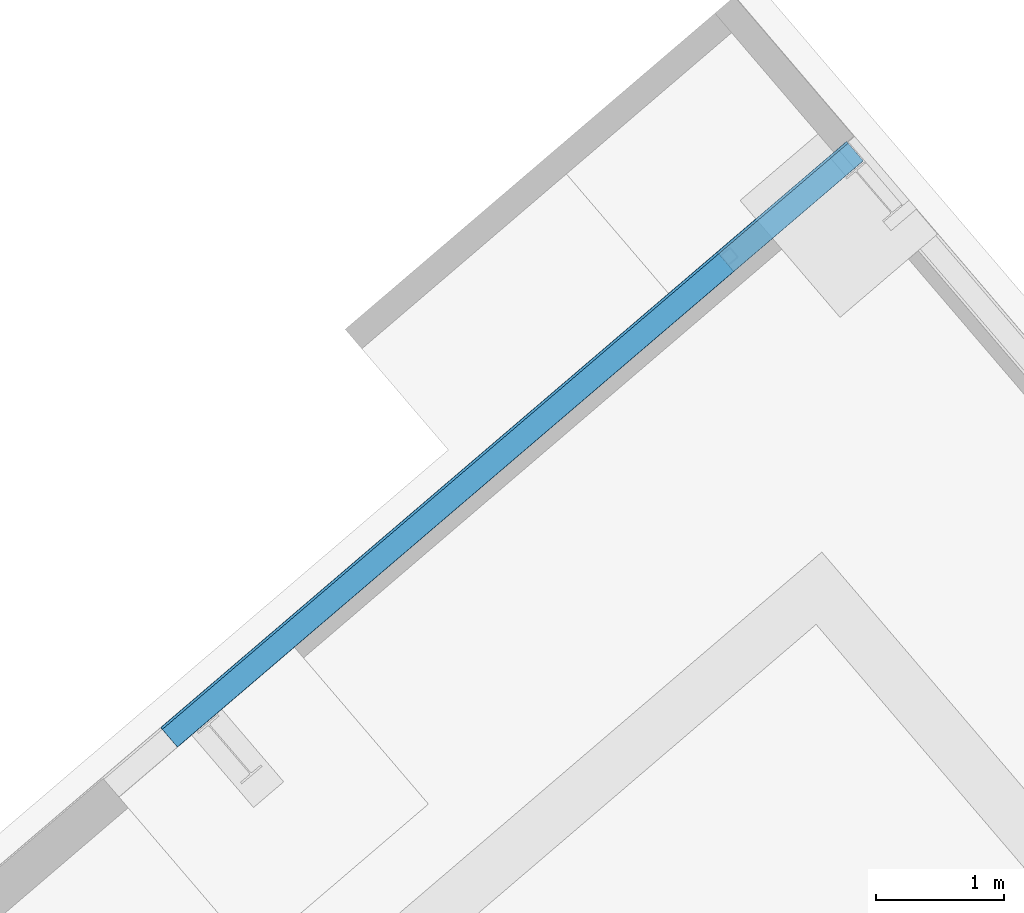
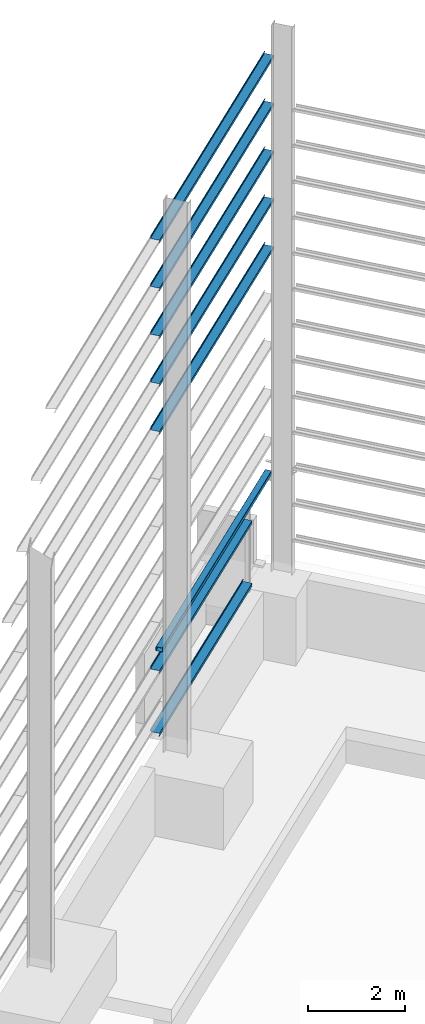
# One storey, part 26 of 41: 6 beams, 2 members.
"""IFC2X3 building model written with IfcOpenShell, lengths in millimetres."""

from ifc_helpers import new_model, entity, si_unit, converted_unit, derived_unit, direction, frame, frame_2d, origin, place, context, subcontext, project, spatial, polyline, circle_curve, parameter, trimmed, segment, composite_curve, outline, extrude, source, transform, mapped, material, type_object, type_shapes, element, save


model = new_model("IFC2X3")

# Units and contexts
model_context = context("Model", 3, precision=0.01, world=origin(), true_north=direction((6.123031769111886e-17, 1.0)))
body_context = subcontext(model_context, "Body", "Model", "MODEL_VIEW")
ifc_project = project(units=[si_unit("LENGTHUNIT", "METRE", prefix="MILLI"), si_unit("AREAUNIT", "SQUARE_METRE"), si_unit("VOLUMEUNIT", "CUBIC_METRE"), converted_unit("PLANEANGLEUNIT", "DEGREE", entity("IfcRatioMeasure", 0.017453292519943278), si_unit("PLANEANGLEUNIT", "RADIAN"), dimensions=[0, 0, 0, 0, 0, 0, 0]), si_unit("MASSUNIT", "GRAM", prefix="KILO"), derived_unit("MASSDENSITYUNIT", [(si_unit("MASSUNIT", "GRAM", prefix="KILO"), 1), (si_unit("LENGTHUNIT", "METRE"), -3)]), derived_unit("MOMENTOFINERTIAUNIT", [(si_unit("LENGTHUNIT", "METRE"), 4)]), si_unit("TIMEUNIT", "SECOND"), si_unit("FREQUENCYUNIT", "HERTZ"), si_unit("THERMODYNAMICTEMPERATUREUNIT", "DEGREE_CELSIUS"), derived_unit("THERMALTRANSMITTANCEUNIT", [(si_unit("MASSUNIT", "GRAM", prefix="KILO"), 1), (si_unit("THERMODYNAMICTEMPERATUREUNIT", "KELVIN"), -1), (si_unit("TIMEUNIT", "SECOND"), -3)]), derived_unit("VOLUMETRICFLOWRATEUNIT", [(si_unit("LENGTHUNIT", "METRE"), 3), (si_unit("TIMEUNIT", "SECOND"), -1)]), derived_unit("MASSFLOWRATEUNIT", [(si_unit("MASSUNIT", "GRAM", prefix="KILO"), 1), (si_unit("TIMEUNIT", "SECOND"), -1)]), derived_unit("ROTATIONALFREQUENCYUNIT", [(si_unit("TIMEUNIT", "SECOND"), -1)]), si_unit("ELECTRICCURRENTUNIT", "AMPERE"), si_unit("ELECTRICVOLTAGEUNIT", "VOLT"), si_unit("POWERUNIT", "WATT"), si_unit("FORCEUNIT", "NEWTON", prefix="KILO"), si_unit("ILLUMINANCEUNIT", "LUX"), si_unit("LUMINOUSFLUXUNIT", "LUMEN"), si_unit("LUMINOUSINTENSITYUNIT", "CANDELA"), derived_unit("USERDEFINED", [(si_unit("MASSUNIT", "GRAM", prefix="KILO"), -1), (si_unit("LENGTHUNIT", "METRE"), -2), (si_unit("TIMEUNIT", "SECOND"), 3), (si_unit("LUMINOUSFLUXUNIT", "LUMEN"), 1)]), derived_unit("SOUNDPOWERUNIT", [(si_unit("MASSUNIT", "GRAM", prefix="KILO"), 1), (si_unit("LENGTHUNIT", "METRE"), 2), (si_unit("TIMEUNIT", "SECOND"), -3)]), derived_unit("LINEARVELOCITYUNIT", [(si_unit("LENGTHUNIT", "METRE"), 1), (si_unit("TIMEUNIT", "SECOND"), -1)]), si_unit("PRESSUREUNIT", "PASCAL"), derived_unit("USERDEFINED", [(si_unit("LENGTHUNIT", "METRE"), -2), (si_unit("MASSUNIT", "GRAM", prefix="KILO"), 1), (si_unit("TIMEUNIT", "SECOND"), -2)]), derived_unit("LINEARFORCEUNIT", [(si_unit("MASSUNIT", "GRAM", prefix="KILO"), 1), (si_unit("LENGTHUNIT", "METRE"), 1), (si_unit("TIMEUNIT", "SECOND"), -2), (si_unit("LENGTHUNIT", "METRE"), -1)]), derived_unit("PLANARFORCEUNIT", [(si_unit("MASSUNIT", "GRAM", prefix="KILO"), 1), (si_unit("LENGTHUNIT", "METRE"), 1), (si_unit("TIMEUNIT", "SECOND"), -2), (si_unit("LENGTHUNIT", "METRE"), -2)])], contexts=[model_context])

# Site, building, storey
site_placement = place(None, frame((962.4174930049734, -6014.433753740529, 0.0), z_axis=(0.0, 0.0, 1.0), x_axis=(0.7601792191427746, 0.649713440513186, 0.0)))
site = spatial("IfcSite", under=ifc_project, at=site_placement, Name="Default", CompositionType="ELEMENT")
building_placement = place(site_placement, origin())
building = spatial("IfcBuilding", under=site, at=building_placement, CompositionType="ELEMENT")
storey_placement = place(building_placement, origin())
storey = spatial("IfcBuildingStorey", under=building, at=storey_placement, Name="Datum", CompositionType="ELEMENT", Elevation=0.0)

# Beam
ifc_material_1 = material(Name="Metal - Steel - 300 MPa")
beam_type_1 = type_object("IfcBeamType", Name="ADSK_AU_RHS-Rectangular Hollow Sections (AS 1163_C350):150x100x5.0RHS", PredefinedType="NOTDEFINED")
beam_1_placement = place(storey_placement, frame((179137.06020470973, 3859.0719178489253, 2140.0)))
element("IfcBeam", 1, at=beam_1_placement, inside=storey, type_object=beam_type_1, material=ifc_material_1, Name="ADSK_AU_RHS-Rectangular Hollow Sections (AS 1163_C350):150x100x5.0RHS", ObjectType="ADSK_AU_RHS-Rectangular Hollow Sections (AS 1163_C350):150x100x5.0RHS", context=body_context, shape_type="SweptSolid", body=[
    extrude(outline(composite_curve([segment(trimmed(circle_curve(frame_2d((-37.49999999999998, -62.49999999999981), x_axis=(1.0, 0.0)), 12.5), [parameter(180.00000000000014)], [parameter(269.99999999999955)], True, "PARAMETER"), True, "CONTINUOUS"), segment(polyline([(-37.49999999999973, -75.0), (37.50000000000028, -75.0)]), True, "CONTINUOUS"), segment(trimmed(circle_curve(frame_2d((37.50000000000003, -62.499999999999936), x_axis=(1.0, 0.0)), 12.5), [parameter(269.9999999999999)], [parameter(0.0)], True, "PARAMETER"), True, "CONTINUOUS"), segment(polyline([(50.0, -62.499999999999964), (50.0, 62.500000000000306)]), True, "CONTINUOUS"), segment(trimmed(circle_curve(frame_2d((37.500000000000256, 62.499999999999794), x_axis=(1.0, 0.0)), 12.5), [parameter(359.9999999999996)], [parameter(89.99999999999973)], True, "PARAMETER"), True, "CONTINUOUS"), segment(polyline([(37.50000000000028, 75.0), (-37.49999999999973, 75.0)]), True, "CONTINUOUS"), segment(trimmed(circle_curve(frame_2d((-37.49999999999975, 62.49999999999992), x_axis=(1.0, 0.0)), 12.5), [parameter(90.00000000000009)], [parameter(180.00000000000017)], True, "PARAMETER"), True, "CONTINUOUS"), segment(polyline([(-50.0, 62.49999999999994), (-50.0, -62.49999999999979)]), True, "CONTINUOUS")], self_intersect=False), holes=[composite_curve([segment(polyline([(37.500000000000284, -70.0), (-37.49999999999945, -70.0)]), True, "CONTINUOUS"), segment(trimmed(circle_curve(frame_2d((-37.49999999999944, -62.50000000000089), x_axis=(1.0, 0.0)), 7.5), [parameter(180.0000000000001)], [parameter(269.9999999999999)], True, "PARAMETER"), False, "CONTINUOUS"), segment(polyline([(-45.0, -62.500000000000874), (-45.0, 62.499999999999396)]), True, "CONTINUOUS"), segment(trimmed(circle_curve(frame_2d((-37.49999999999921, 62.49999999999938), x_axis=(1.0, 0.0)), 7.5), [parameter(90.00000000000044)], [parameter(180.0000000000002)], True, "PARAMETER"), False, "CONTINUOUS"), segment(polyline([(-37.499999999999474, 70.0), (37.50000000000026, 70.0)]), True, "CONTINUOUS"), segment(trimmed(circle_curve(frame_2d((37.500000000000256, 62.499999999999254), x_axis=(1.0, 0.0)), 7.5), [parameter(0.0)], [parameter(90.00000000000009)], True, "PARAMETER"), False, "CONTINUOUS"), segment(polyline([(45.0, 62.49999999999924), (45.0, -62.50000000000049)]), True, "CONTINUOUS"), segment(trimmed(circle_curve(frame_2d((37.50000000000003, -62.500000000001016), x_axis=(1.0, 0.0)), 7.5), [parameter(270.00000000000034)], [parameter(4.0711099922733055e-13)], True, "PARAMETER"), False, "CONTINUOUS")], self_intersect=False)]), frame((1.9000000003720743, -75.0, 0.0), z_axis=(1.0, 0.0, 0.0), x_axis=(0.0, 0.0, 1.0)), (0.0, 0.0, 1.0), 6740.299999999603),
])

# Members
ifc_material_2 = material(Name="Metal - Steel - 345 MPa")
member_type_1 = type_object("IfcMemberType", Name="ADSK_AU_Light Gauge-Zeds:Z20015", PredefinedType="BRACE", material=ifc_material_2)
shared_shape_1 = source(origin(), body_context, "Body", "SweptSolid", [
    extrude(outline(composite_curve([segment(polyline([(-98.0, -67.50000000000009), (-81.49999999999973, -67.50000000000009)]), True, "CONTINUOUS"), segment(polyline([(-81.49999999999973, -67.50000000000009), (-81.49999999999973, -66.0)]), True, "CONTINUOUS"), segment(polyline([(-81.49999999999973, -66.0), (-98.0, -66.0)]), True, "CONTINUOUS"), segment(trimmed(circle_curve(frame_2d((-98.0, -64.0), x_axis=(0.0, -1.0)), 2.000000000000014), [parameter(270.00000000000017)], [parameter(0.0)], True, "PARAMETER"), False, "CONTINUOUS"), segment(polyline([(-100.0, -64.0), (-100.0, -6.500000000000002)]), True, "CONTINUOUS"), segment(trimmed(circle_curve(frame_2d((-98.0, -6.500000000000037), x_axis=(-1.0, 0.0)), 2.0000000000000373), [parameter(270.0000000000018)], [parameter(0.0)], True, "PARAMETER"), False, "CONTINUOUS"), segment(polyline([(-98.0, -4.499999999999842), (98.0, -4.499999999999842)]), True, "CONTINUOUS"), segment(trimmed(circle_curve(frame_2d((98.0, -1.0), x_axis=(0.0, -1.0)), 3.5000000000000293), [parameter(0.0)], [parameter(89.99999999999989)], True, "PARAMETER"), True, "CONTINUOUS"), segment(polyline([(101.49999999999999, -1.0), (101.49999999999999, 69.0)]), True, "CONTINUOUS"), segment(trimmed(circle_curve(frame_2d((98.0, 69.0), x_axis=(1.0, 0.0)), 3.4999999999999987), [parameter(0.0)], [parameter(90.00000000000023)], True, "PARAMETER"), True, "CONTINUOUS"), segment(polyline([(98.0, 72.49999999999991), (81.49999999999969, 72.49999999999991)]), True, "CONTINUOUS"), segment(polyline([(81.49999999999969, 72.49999999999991), (81.49999999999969, 71.0)]), True, "CONTINUOUS"), segment(polyline([(81.49999999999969, 71.0), (98.0, 71.0)]), True, "CONTINUOUS"), segment(trimmed(circle_curve(frame_2d((98.0, 69.0), x_axis=(0.0, 1.0)), 2.000000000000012), [parameter(270.00000000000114)], [parameter(0.0)], True, "PARAMETER"), False, "CONTINUOUS"), segment(polyline([(100.0, 69.0), (100.0, -1.0)]), True, "CONTINUOUS"), segment(trimmed(circle_curve(frame_2d((98.0, -1.0), x_axis=(1.0, 0.0)), 1.99999999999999), [parameter(269.99999999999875)], [parameter(0.0)], True, "PARAMETER"), False, "CONTINUOUS"), segment(polyline([(98.0, -3.0), (-98.0, -3.0)]), True, "CONTINUOUS"), segment(trimmed(circle_curve(frame_2d((-98.0, -6.499999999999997), x_axis=(0.0, 1.0)), 3.5000000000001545), [parameter(0.0)], [parameter(89.99999999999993)], True, "PARAMETER"), True, "CONTINUOUS"), segment(polyline([(-101.50000000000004, -6.500000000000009), (-101.50000000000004, -64.0)]), True, "CONTINUOUS"), segment(trimmed(circle_curve(frame_2d((-98.0, -64.0), x_axis=(-1.0, 0.0)), 3.5000000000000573), [parameter(0.0)], [parameter(89.99999999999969)], True, "PARAMETER"), True, "CONTINUOUS")], self_intersect=False)), frame((-2823.6948683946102, 4.500000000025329, 0.0), z_axis=(1.0, 0.0, 0.0), x_axis=(0.0, 0.0, -1.0)), (0.0, 0.0, 1.0), 5711.200000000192),
])
type_shapes(member_type_1, [shared_shape_1])
member_1_placement = place(storey_placement, frame((181662.155073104, 3770.5719178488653, 256.19467070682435), z_axis=(0.0, 1.0, 0.0), x_axis=(1.0, 0.0, 0.0)))
element("IfcMember", 2, at=member_1_placement, inside=storey, type_object=member_type_1, material=ifc_material_2, Name="ADSK_AU_Light Gauge-Zeds:Z20015", ObjectType="ADSK_AU_Light Gauge-Zeds:Z20015", context=body_context, shape_type="MappedRepresentation", body=[
    mapped(shared_shape_1, transform((0.0, 0.0, 0.0), scale=1.0)),
])
member_type_2 = type_object("IfcMemberType", Name="ADSK_AU_Light Gauge-Zeds:Z20015", PredefinedType="BRACE", material=ifc_material_2)
shared_shape_2 = source(origin(), body_context, "Body", "SweptSolid", [
    extrude(outline(composite_curve([segment(polyline([(-98.0, -67.50000000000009), (-81.49999999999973, -67.50000000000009)]), True, "CONTINUOUS"), segment(polyline([(-81.49999999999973, -67.50000000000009), (-81.49999999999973, -66.0)]), True, "CONTINUOUS"), segment(polyline([(-81.49999999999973, -66.0), (-98.0, -66.0)]), True, "CONTINUOUS"), segment(trimmed(circle_curve(frame_2d((-98.0, -64.0), x_axis=(0.0, -1.0)), 2.0000000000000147), [parameter(270.00000000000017)], [parameter(0.0)], True, "PARAMETER"), False, "CONTINUOUS"), segment(polyline([(-100.0, -64.0), (-100.0, -6.500000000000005)]), True, "CONTINUOUS"), segment(trimmed(circle_curve(frame_2d((-98.0, -6.500000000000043), x_axis=(-1.0, 0.0)), 2.000000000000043), [parameter(270.000000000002)], [parameter(0.0)], True, "PARAMETER"), False, "CONTINUOUS"), segment(polyline([(-98.0, -4.499999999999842), (98.0, -4.499999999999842)]), True, "CONTINUOUS"), segment(trimmed(circle_curve(frame_2d((98.0, -1.0), x_axis=(0.0, -1.0)), 3.500000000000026), [parameter(0.0)], [parameter(89.99999999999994)], True, "PARAMETER"), True, "CONTINUOUS"), segment(polyline([(101.49999999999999, -1.0), (101.49999999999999, 69.0)]), True, "CONTINUOUS"), segment(trimmed(circle_curve(frame_2d((98.0, 69.0), x_axis=(1.0, 0.0)), 3.4999999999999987), [parameter(0.0)], [parameter(90.00000000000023)], True, "PARAMETER"), True, "CONTINUOUS"), segment(polyline([(98.0, 72.49999999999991), (81.49999999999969, 72.49999999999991)]), True, "CONTINUOUS"), segment(polyline([(81.49999999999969, 72.49999999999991), (81.49999999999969, 71.0)]), True, "CONTINUOUS"), segment(polyline([(81.49999999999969, 71.0), (98.0, 71.0)]), True, "CONTINUOUS"), segment(trimmed(circle_curve(frame_2d((98.0, 69.0), x_axis=(0.0, 1.0)), 2.000000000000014), [parameter(270.00000000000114)], [parameter(0.0)], True, "PARAMETER"), False, "CONTINUOUS"), segment(polyline([(100.0, 69.0), (100.0, -1.0)]), True, "CONTINUOUS"), segment(trimmed(circle_curve(frame_2d((98.0, -1.0), x_axis=(1.0, 0.0)), 1.9999999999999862), [parameter(269.99999999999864)], [parameter(0.0)], True, "PARAMETER"), False, "CONTINUOUS"), segment(polyline([(98.0, -3.0), (-98.0, -3.0)]), True, "CONTINUOUS"), segment(trimmed(circle_curve(frame_2d((-98.0, -6.499999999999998), x_axis=(0.0, 1.0)), 3.5000000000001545), [parameter(0.0)], [parameter(89.99999999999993)], True, "PARAMETER"), True, "CONTINUOUS"), segment(polyline([(-101.50000000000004, -6.50000000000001), (-101.50000000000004, -64.0)]), True, "CONTINUOUS"), segment(trimmed(circle_curve(frame_2d((-98.0, -64.0), x_axis=(-1.0, 0.0)), 3.500000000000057), [parameter(0.0)], [parameter(89.99999999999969)], True, "PARAMETER"), True, "CONTINUOUS")], self_intersect=False)), frame((-4377.526589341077, 4.499999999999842, 0.0), z_axis=(1.0, 0.0, 0.0), x_axis=(0.0, 0.0, -1.0)), (0.0, 0.0, 1.0), 5710.549999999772),
])
type_shapes(member_type_2, [shared_shape_2])
member_2_placement = place(storey_placement, frame((183216.63679405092, 3770.5719178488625, 1826.4999999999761), z_axis=(0.0, 1.0, 0.0), x_axis=(1.0, 0.0, 0.0)))
element("IfcMember", 3, at=member_2_placement, inside=storey, type_object=member_type_2, material=ifc_material_2, Name="ADSK_AU_Light Gauge-Zeds:Z20015", ObjectType="ADSK_AU_Light Gauge-Zeds:Z20015", context=body_context, shape_type="MappedRepresentation", body=[
    mapped(shared_shape_2, transform((0.0, 0.0, 0.0), scale=1.0)),
])

# Beams
beam_type_2 = type_object("IfcBeamType", Name="ADSK_AU_Light Gauge-Zeds:Z20015", PredefinedType="NOTDEFINED")
beam_2_placement = place(building_placement, frame((178838.96020471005, 3872.071917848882, 12626.799999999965)))
element("IfcBeam", 4, at=beam_2_placement, inside=storey, type_object=beam_type_2, material=ifc_material_2, Name="ADSK_AU_Light Gauge-Zeds:Z20015", ObjectType="ADSK_AU_Light Gauge-Zeds:Z20015", context=body_context, shape_type="SweptSolid", body=[
    extrude(outline(composite_curve([segment(polyline([(-1.0, -101.5000000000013), (69.0, -101.5000000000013)]), True, "CONTINUOUS"), segment(trimmed(circle_curve(frame_2d((69.0, -98.0), x_axis=(0.0, -1.0)), 3.4999999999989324), [parameter(0.0)], [parameter(90.00000000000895)], True, "PARAMETER"), True, "CONTINUOUS"), segment(polyline([(72.50000000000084, -98.0), (72.50000000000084, -81.50000000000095)]), True, "CONTINUOUS"), segment(polyline([(72.50000000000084, -81.50000000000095), (71.0, -81.50000000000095)]), True, "CONTINUOUS"), segment(polyline([(71.0, -81.50000000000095), (71.0, -98.0)]), True, "CONTINUOUS"), segment(trimmed(circle_curve(frame_2d((69.0, -98.0), x_axis=(1.0, 0.0)), 1.999999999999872), [parameter(269.9999999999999)], [parameter(0.0)], True, "PARAMETER"), False, "CONTINUOUS"), segment(polyline([(69.0, -100.0), (-1.0, -100.0)]), True, "CONTINUOUS"), segment(trimmed(circle_curve(frame_2d((-1.0, -98.0), x_axis=(0.0, -1.0)), 1.999999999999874), [parameter(269.9999999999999)], [parameter(0.0)], True, "PARAMETER"), False, "CONTINUOUS"), segment(polyline([(-3.0, -98.0), (-3.0, 98.0)]), True, "CONTINUOUS"), segment(trimmed(circle_curve(frame_2d((-6.499999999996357, 98.0), x_axis=(1.0, 0.0)), 3.4999999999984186), [parameter(0.0)], [parameter(90.00000000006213)], True, "PARAMETER"), True, "CONTINUOUS"), segment(polyline([(-6.499999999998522, 101.49999999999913), (-64.0, 101.49999999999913)]), True, "CONTINUOUS"), segment(trimmed(circle_curve(frame_2d((-64.0, 98.0), x_axis=(0.0, 1.0)), 3.499999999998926), [parameter(0.0)], [parameter(90.00000000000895)], True, "PARAMETER"), True, "CONTINUOUS"), segment(polyline([(-67.49999999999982, 98.0), (-67.49999999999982, 81.4999999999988)]), True, "CONTINUOUS"), segment(polyline([(-67.49999999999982, 81.4999999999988), (-66.0, 81.4999999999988)]), True, "CONTINUOUS"), segment(polyline([(-66.0, 81.4999999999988), (-66.0, 98.0)]), True, "CONTINUOUS"), segment(trimmed(circle_curve(frame_2d((-64.0, 98.0), x_axis=(-1.0, 0.0)), 1.9999999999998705), [parameter(269.9999999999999)], [parameter(0.0)], True, "PARAMETER"), False, "CONTINUOUS"), segment(polyline([(-64.0, 100.0), (-6.499999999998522, 100.0)]), True, "CONTINUOUS"), segment(trimmed(circle_curve(frame_2d((-6.499999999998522, 98.0), x_axis=(0.0, 1.0)), 1.999999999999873), [parameter(269.9999999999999)], [parameter(0.0)], True, "PARAMETER"), False, "CONTINUOUS"), segment(polyline([(-4.499999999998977, 98.0), (-4.499999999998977, -98.0)]), True, "CONTINUOUS"), segment(trimmed(circle_curve(frame_2d((-1.0, -98.0), x_axis=(-1.0, 0.0)), 3.499999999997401), [parameter(0.0)], [parameter(90.000000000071)], True, "PARAMETER"), True, "CONTINUOUS")], self_intersect=False)), frame((0.14999999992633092, -101.50000000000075, -4.499999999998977), z_axis=(1.0, 0.0, 0.0), x_axis=(0.0, 0.0, -1.0)), (0.0, 0.0, 1.0), 7039.999999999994),
])
beam_3_placement = place(building_placement, frame((178838.96020471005, 3872.0719178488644, 11426.799999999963)))
element("IfcBeam", 5, at=beam_3_placement, inside=storey, type_object=beam_type_2, material=ifc_material_2, Name="ADSK_AU_Light Gauge-Zeds:Z20015", ObjectType="ADSK_AU_Light Gauge-Zeds:Z20015", context=body_context, shape_type="SweptSolid", body=[
    extrude(outline(composite_curve([segment(polyline([(-1.0, -101.50000000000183), (69.0, -101.50000000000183)]), True, "CONTINUOUS"), segment(trimmed(circle_curve(frame_2d((69.0, -98.0), x_axis=(0.0, -1.0)), 3.4999999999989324), [parameter(0.0)], [parameter(90.00000000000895)], True, "PARAMETER"), True, "CONTINUOUS"), segment(polyline([(72.50000000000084, -98.0), (72.50000000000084, -81.50000000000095)]), True, "CONTINUOUS"), segment(polyline([(72.50000000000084, -81.50000000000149), (71.0, -81.50000000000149)]), True, "CONTINUOUS"), segment(polyline([(71.0, -81.50000000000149), (71.0, -98.0)]), True, "CONTINUOUS"), segment(trimmed(circle_curve(frame_2d((69.0, -98.0), x_axis=(1.0, 0.0)), 1.999999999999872), [parameter(269.9999999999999)], [parameter(0.0)], True, "PARAMETER"), False, "CONTINUOUS"), segment(polyline([(69.0, -100.0), (-1.0, -100.0)]), True, "CONTINUOUS"), segment(trimmed(circle_curve(frame_2d((-1.0, -98.0), x_axis=(0.0, -1.0)), 1.999999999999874), [parameter(269.9999999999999)], [parameter(0.0)], True, "PARAMETER"), False, "CONTINUOUS"), segment(polyline([(-3.0, -98.0), (-3.0, 98.0)]), True, "CONTINUOUS"), segment(trimmed(circle_curve(frame_2d((-6.499999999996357, 98.0), x_axis=(1.0, 0.0)), 3.4999999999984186), [parameter(0.0)], [parameter(90.00000000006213)], True, "PARAMETER"), True, "CONTINUOUS"), segment(polyline([(-6.499999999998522, 101.4999999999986), (-64.0, 101.4999999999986)]), True, "CONTINUOUS"), segment(trimmed(circle_curve(frame_2d((-64.0, 98.0), x_axis=(0.0, 1.0)), 3.499999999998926), [parameter(0.0)], [parameter(90.00000000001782)], True, "PARAMETER"), True, "CONTINUOUS"), segment(polyline([(-67.49999999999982, 98.0), (-67.49999999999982, 81.49999999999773)]), True, "CONTINUOUS"), segment(polyline([(-67.49999999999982, 81.49999999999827), (-66.0, 81.49999999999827)]), True, "CONTINUOUS"), segment(polyline([(-66.0, 81.49999999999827), (-66.0, 98.0)]), True, "CONTINUOUS"), segment(trimmed(circle_curve(frame_2d((-64.0, 98.0), x_axis=(-1.0, 0.0)), 1.9999999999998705), [parameter(269.9999999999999)], [parameter(0.0)], True, "PARAMETER"), False, "CONTINUOUS"), segment(polyline([(-64.0, 100.0), (-6.499999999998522, 100.0)]), True, "CONTINUOUS"), segment(trimmed(circle_curve(frame_2d((-6.499999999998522, 98.0), x_axis=(0.0, 1.0)), 1.999999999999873), [parameter(269.9999999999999)], [parameter(0.0)], True, "PARAMETER"), False, "CONTINUOUS"), segment(polyline([(-4.499999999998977, 98.0), (-4.499999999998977, -98.0)]), True, "CONTINUOUS"), segment(trimmed(circle_curve(frame_2d((-1.0, -98.0), x_axis=(-1.0, 0.0)), 3.499999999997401), [parameter(0.0)], [parameter(90.000000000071)], True, "PARAMETER"), True, "CONTINUOUS")], self_intersect=False)), frame((0.14999999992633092, -101.50000000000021, -4.499999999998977), z_axis=(1.0, 0.0, 0.0), x_axis=(0.0, 0.0, -1.0)), (0.0, 0.0, 1.0), 7039.999999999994),
])
beam_4_placement = place(building_placement, frame((178838.96020471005, 3872.0719178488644, 10226.799999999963)))
element("IfcBeam", 6, at=beam_4_placement, inside=storey, type_object=beam_type_2, material=ifc_material_2, Name="ADSK_AU_Light Gauge-Zeds:Z20015", ObjectType="ADSK_AU_Light Gauge-Zeds:Z20015", context=body_context, shape_type="SweptSolid", body=[
    extrude(outline(composite_curve([segment(polyline([(-1.0, -101.50000000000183), (69.0, -101.50000000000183)]), True, "CONTINUOUS"), segment(trimmed(circle_curve(frame_2d((69.0, -98.0), x_axis=(0.0, -1.0)), 3.4999999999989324), [parameter(0.0)], [parameter(90.00000000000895)], True, "PARAMETER"), True, "CONTINUOUS"), segment(polyline([(72.49999999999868, -98.0), (72.49999999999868, -81.50000000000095)]), True, "CONTINUOUS"), segment(polyline([(72.49999999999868, -81.50000000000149), (71.0, -81.50000000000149)]), True, "CONTINUOUS"), segment(polyline([(71.0, -81.50000000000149), (71.0, -98.0)]), True, "CONTINUOUS"), segment(trimmed(circle_curve(frame_2d((69.0, -98.0), x_axis=(1.0, 0.0)), 1.999999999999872), [parameter(269.9999999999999)], [parameter(0.0)], True, "PARAMETER"), False, "CONTINUOUS"), segment(polyline([(69.0, -100.0), (-1.0, -100.0)]), True, "CONTINUOUS"), segment(trimmed(circle_curve(frame_2d((-1.0, -98.0), x_axis=(0.0, -1.0)), 1.999999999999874), [parameter(269.9999999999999)], [parameter(0.0)], True, "PARAMETER"), False, "CONTINUOUS"), segment(polyline([(-3.0, -98.0), (-3.0, 98.0)]), True, "CONTINUOUS"), segment(trimmed(circle_curve(frame_2d((-6.499999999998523, 98.0), x_axis=(1.0, 0.0)), 3.4999999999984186), [parameter(0.0)], [parameter(90.00000000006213)], True, "PARAMETER"), True, "CONTINUOUS"), segment(polyline([(-6.500000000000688, 101.4999999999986), (-64.0, 101.4999999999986)]), True, "CONTINUOUS"), segment(trimmed(circle_curve(frame_2d((-64.0, 98.0), x_axis=(0.0, 1.0)), 3.499999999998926), [parameter(0.0)], [parameter(90.00000000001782)], True, "PARAMETER"), True, "CONTINUOUS"), segment(polyline([(-67.50000000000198, 98.0), (-67.50000000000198, 81.49999999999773)]), True, "CONTINUOUS"), segment(polyline([(-67.50000000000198, 81.49999999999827), (-66.0, 81.49999999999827)]), True, "CONTINUOUS"), segment(polyline([(-66.0, 81.49999999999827), (-66.0, 98.0)]), True, "CONTINUOUS"), segment(trimmed(circle_curve(frame_2d((-64.0, 98.0), x_axis=(-1.0, 0.0)), 1.9999999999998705), [parameter(269.9999999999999)], [parameter(0.0)], True, "PARAMETER"), False, "CONTINUOUS"), segment(polyline([(-64.0, 100.0), (-6.500000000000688, 100.0)]), True, "CONTINUOUS"), segment(trimmed(circle_curve(frame_2d((-6.500000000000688, 98.0), x_axis=(0.0, 1.0)), 1.999999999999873), [parameter(269.9999999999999)], [parameter(0.0)], True, "PARAMETER"), False, "CONTINUOUS"), segment(polyline([(-4.500000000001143, 98.0), (-4.500000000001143, -98.0)]), True, "CONTINUOUS"), segment(trimmed(circle_curve(frame_2d((-1.0, -98.0), x_axis=(-1.0, 0.0)), 3.499999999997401), [parameter(0.0)], [parameter(90.000000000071)], True, "PARAMETER"), True, "CONTINUOUS")], self_intersect=False)), frame((0.14999999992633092, -101.50000000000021, -4.500000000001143), z_axis=(1.0, 0.0, 0.0), x_axis=(0.0, 0.0, -1.0)), (0.0, 0.0, 1.0), 7039.999999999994),
])
beam_5_placement = place(building_placement, frame((178838.96020471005, 3872.0719178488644, 9026.799999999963)))
element("IfcBeam", 7, at=beam_5_placement, inside=storey, type_object=beam_type_2, material=ifc_material_2, Name="ADSK_AU_Light Gauge-Zeds:Z20015", ObjectType="ADSK_AU_Light Gauge-Zeds:Z20015", context=body_context, shape_type="SweptSolid", body=[
    extrude(outline(composite_curve([segment(polyline([(-1.0, -101.50000000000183), (69.0, -101.50000000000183)]), True, "CONTINUOUS"), segment(trimmed(circle_curve(frame_2d((69.0, -98.0), x_axis=(0.0, -1.0)), 3.499999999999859), [parameter(0.0)], [parameter(90.00000000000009)], True, "PARAMETER"), True, "CONTINUOUS"), segment(polyline([(72.50000000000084, -98.0), (72.50000000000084, -81.50000000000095)]), True, "CONTINUOUS"), segment(polyline([(72.50000000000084, -81.50000000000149), (71.0, -81.50000000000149)]), True, "CONTINUOUS"), segment(polyline([(71.0, -81.50000000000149), (71.0, -98.0)]), True, "CONTINUOUS"), segment(trimmed(circle_curve(frame_2d((69.0, -98.0), x_axis=(1.0, 0.0)), 1.9999999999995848), [parameter(269.99999999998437)], [parameter(0.0)], True, "PARAMETER"), False, "CONTINUOUS"), segment(polyline([(69.0, -100.0), (-1.0, -100.0)]), True, "CONTINUOUS"), segment(trimmed(circle_curve(frame_2d((-1.0, -98.0), x_axis=(0.0, -1.0)), 1.999999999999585), [parameter(269.99999999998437)], [parameter(0.0)], True, "PARAMETER"), False, "CONTINUOUS"), segment(polyline([(-3.0, -98.0), (-3.0, 98.0)]), True, "CONTINUOUS"), segment(trimmed(circle_curve(frame_2d((-6.5000000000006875, 98.0), x_axis=(1.0, 0.0)), 3.5000000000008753), [parameter(0.0)], [parameter(89.9999999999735)], True, "PARAMETER"), True, "CONTINUOUS"), segment(polyline([(-6.499999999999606, 101.4999999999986), (-64.0, 101.4999999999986)]), True, "CONTINUOUS"), segment(trimmed(circle_curve(frame_2d((-64.0, 98.0), x_axis=(0.0, 1.0)), 3.49999999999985), [parameter(0.0)], [parameter(90.00000000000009)], True, "PARAMETER"), True, "CONTINUOUS"), segment(polyline([(-67.49999999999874, 98.0), (-67.49999999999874, 81.49999999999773)]), True, "CONTINUOUS"), segment(polyline([(-67.49999999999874, 81.49999999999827), (-66.0, 81.49999999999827)]), True, "CONTINUOUS"), segment(polyline([(-66.0, 81.49999999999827), (-66.0, 98.0)]), True, "CONTINUOUS"), segment(trimmed(circle_curve(frame_2d((-64.0, 98.0), x_axis=(-1.0, 0.0)), 1.9999999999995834), [parameter(269.99999999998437)], [parameter(0.0)], True, "PARAMETER"), False, "CONTINUOUS"), segment(polyline([(-64.0, 100.0), (-6.499999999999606, 100.0)]), True, "CONTINUOUS"), segment(trimmed(circle_curve(frame_2d((-6.499999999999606, 98.0), x_axis=(0.0, 1.0)), 1.9999999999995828), [parameter(269.99999999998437)], [parameter(0.0)], True, "PARAMETER"), False, "CONTINUOUS"), segment(polyline([(-4.499999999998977, 98.0), (-4.499999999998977, -98.0)]), True, "CONTINUOUS"), segment(trimmed(circle_curve(frame_2d((-1.0, -98.0), x_axis=(-1.0, 0.0)), 3.499999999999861), [parameter(0.0)], [parameter(90.00000000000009)], True, "PARAMETER"), True, "CONTINUOUS")], self_intersect=False)), frame((0.14999999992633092, -101.50000000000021, -4.499999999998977), z_axis=(1.0, 0.0, 0.0), x_axis=(0.0, 0.0, -1.0)), (0.0, 0.0, 1.0), 7039.999999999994),
])
beam_6_placement = place(building_placement, frame((178838.96020471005, 3872.0719178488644, 7826.799999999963)))
element("IfcBeam", 8, at=beam_6_placement, inside=storey, type_object=beam_type_2, material=ifc_material_2, Name="ADSK_AU_Light Gauge-Zeds:Z20015", ObjectType="ADSK_AU_Light Gauge-Zeds:Z20015", context=body_context, shape_type="SweptSolid", body=[
    extrude(outline(composite_curve([segment(polyline([(-1.0, -101.50000000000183), (69.0, -101.50000000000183)]), True, "CONTINUOUS"), segment(trimmed(circle_curve(frame_2d((69.0, -98.0), x_axis=(0.0, -1.0)), 3.499999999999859), [parameter(0.0)], [parameter(90.00000000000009)], True, "PARAMETER"), True, "CONTINUOUS"), segment(polyline([(72.49999999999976, -98.0), (72.49999999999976, -81.50000000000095)]), True, "CONTINUOUS"), segment(polyline([(72.49999999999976, -81.50000000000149), (71.0, -81.50000000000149)]), True, "CONTINUOUS"), segment(polyline([(71.0, -81.50000000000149), (71.0, -98.0)]), True, "CONTINUOUS"), segment(trimmed(circle_curve(frame_2d((69.0, -98.0), x_axis=(1.0, 0.0)), 1.9999999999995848), [parameter(269.99999999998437)], [parameter(0.0)], True, "PARAMETER"), False, "CONTINUOUS"), segment(polyline([(69.0, -100.0), (-1.0, -100.0)]), True, "CONTINUOUS"), segment(trimmed(circle_curve(frame_2d((-1.0, -98.0), x_axis=(0.0, -1.0)), 1.999999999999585), [parameter(269.99999999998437)], [parameter(0.0)], True, "PARAMETER"), False, "CONTINUOUS"), segment(polyline([(-3.0, -98.0), (-3.0, 98.0)]), True, "CONTINUOUS"), segment(trimmed(circle_curve(frame_2d((-6.500000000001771, 98.0), x_axis=(1.0, 0.0)), 3.5000000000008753), [parameter(0.0)], [parameter(89.9999999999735)], True, "PARAMETER"), True, "CONTINUOUS"), segment(polyline([(-6.5000000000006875, 101.4999999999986), (-64.0, 101.4999999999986)]), True, "CONTINUOUS"), segment(trimmed(circle_curve(frame_2d((-64.0, 98.0), x_axis=(0.0, 1.0)), 3.49999999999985), [parameter(0.0)], [parameter(90.00000000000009)], True, "PARAMETER"), True, "CONTINUOUS"), segment(polyline([(-67.49999999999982, 98.0), (-67.49999999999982, 81.49999999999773)]), True, "CONTINUOUS"), segment(polyline([(-67.49999999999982, 81.49999999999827), (-66.0, 81.49999999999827)]), True, "CONTINUOUS"), segment(polyline([(-66.0, 81.49999999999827), (-66.0, 98.0)]), True, "CONTINUOUS"), segment(trimmed(circle_curve(frame_2d((-64.0, 98.0), x_axis=(-1.0, 0.0)), 1.9999999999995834), [parameter(269.99999999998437)], [parameter(0.0)], True, "PARAMETER"), False, "CONTINUOUS"), segment(polyline([(-64.0, 100.0), (-6.5000000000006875, 100.0)]), True, "CONTINUOUS"), segment(trimmed(circle_curve(frame_2d((-6.5000000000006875, 98.0), x_axis=(0.0, 1.0)), 1.9999999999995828), [parameter(269.99999999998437)], [parameter(0.0)], True, "PARAMETER"), False, "CONTINUOUS"), segment(polyline([(-4.5000000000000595, 98.0), (-4.5000000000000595, -98.0)]), True, "CONTINUOUS"), segment(trimmed(circle_curve(frame_2d((-1.0, -98.0), x_axis=(-1.0, 0.0)), 3.499999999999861), [parameter(0.0)], [parameter(90.00000000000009)], True, "PARAMETER"), True, "CONTINUOUS")], self_intersect=False)), frame((0.14999999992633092, -101.50000000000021, -4.5000000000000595), z_axis=(1.0, 0.0, 0.0), x_axis=(0.0, 0.0, -1.0)), (0.0, 0.0, 1.0), 7039.999999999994),
])

save(model, "model.ifc")
